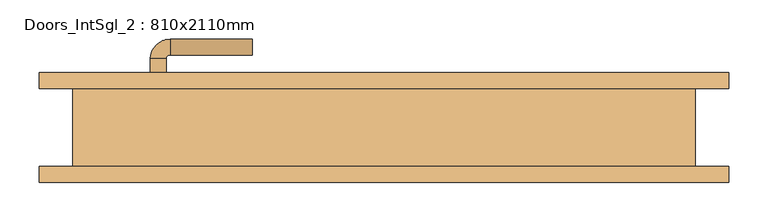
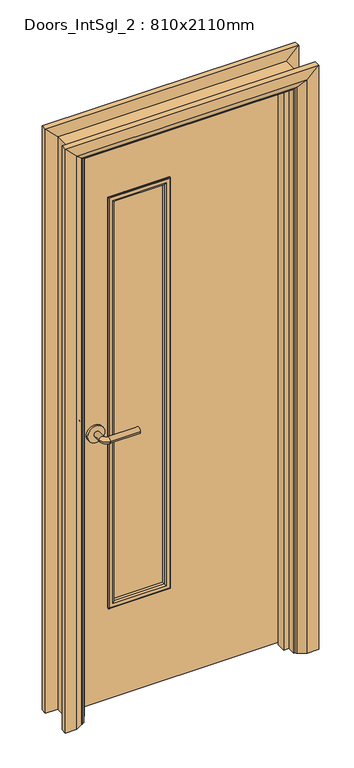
"""IFC4 building model written with IfcOpenShell, lengths in millimetres: door geometry, Doors_IntSgl_2 : 810x2110mm."""

from ifc_helpers import new_model, si_unit, point, frame, frame_2d, origin, place, context, project, spatial, polyline, circle_curve, ellipse_curve, trimmed, segment, composite_curve, outline, extrude, faceted_brep, source, transform, mapped, element, save
from ifc_brep_helpers import plane_surface, cylinder_surface, revolved_surface, advanced_brep


def doors_intsgl_2_810x2110mm_89a19a68(model_context):
    return source(origin(), model_context, "Body", "SolidModel", [
        advanced_brep(
        [(-298.0, 4.0, 1000.0), (-278.0, 4.0, 1000.0), (-278.0, -26.0, 1000.0), (-298.0, -26.0, 1000.0), (-273.0, -31.0, 1000.0), (-273.0, -51.0, 1000.0), (-168.0, -51.0, 1000.0), (-168.0, -31.0, 1000.0)],
        [
            (0, 1, circle_curve(frame((-288.0, 4.0, 1000.0), z_axis=(0.0, 1.0, 0.0), x_axis=(1.0, 0.0, 0.0)), 10.0)),
            (1, 0, circle_curve(frame((-288.0, 4.0, 1000.0), z_axis=(0.0, 1.0, 0.0), x_axis=(1.0, 0.0, 0.0)), 10.0)),
            (1, 2),
            (2, 3, circle_curve(frame((-288.0, -26.0, 1000.0), z_axis=(0.0, 1.0, 0.0), x_axis=(1.0, 0.0, 0.0)), 10.0)),
            (3, 0),
            (3, 2, circle_curve(frame((-288.0, -26.0, 1000.0), z_axis=(0.0, 1.0, 0.0), x_axis=(1.0, 0.0, 0.0)), 10.0)),
            (4, 5, circle_curve(frame((-273.0, -41.0, 1000.0), z_axis=(-1.0, 0.0, 0.0), x_axis=(0.0, 1.0, 0.0)), 10.0)),
            (5, 3, circle_curve(frame((-273.0, -26.0, 1000.0), z_axis=(0.0, 0.0, -1.0), x_axis=(-1.0, 0.0, 0.0)), 25.0)),
            (2, 4, circle_curve(frame((-273.0, -26.0, 1000.0), z_axis=(0.0, 0.0, 1.0), x_axis=(-1.0, 0.0, 0.0)), 5.0)),
            (5, 4, circle_curve(frame((-273.0, -41.0, 1000.0), z_axis=(-1.0, 0.0, 0.0), x_axis=(0.0, 1.0, 0.0)), 10.0)),
            (6, 7, circle_curve(frame((-168.0, -41.0, 1000.0), z_axis=(1.0, 0.0, 0.0), x_axis=(0.0, 1.0, 0.0)), 10.0)),
            (7, 6, circle_curve(frame((-168.0, -41.0, 1000.0), z_axis=(1.0, 0.0, 0.0), x_axis=(0.0, 1.0, 0.0)), 10.0)),
            (4, 7),
            (6, 5),
        ],
        [
            plane_surface(frame((-288.0, 4.0, 1000.0), z_axis=(0.0, 1.0, 0.0), x_axis=(0.0, 0.0, 1.0))),
            cylinder_surface(frame((-288.0, 4.0, 1000.0), z_axis=(0.0, 1.0, 0.0), x_axis=(1.0, 0.0, 0.0)), 10.0),
            revolved_surface(trimmed(ellipse_curve(frame((-288.0, -26.0, 1000.0), z_axis=(0.0, -1.0, 0.0), x_axis=(1.0, 0.0, 0.0)), 10.0, 10.0), [point((-298.0, -26.0, 1000.0))], [point((-278.0, -26.0, 1000.0))], True, "CARTESIAN"), (-273.0, -26.0, 1000.0), (0.0, 0.0, -1.0)),
            revolved_surface(trimmed(ellipse_curve(frame((-288.0, -26.0, 1000.0), z_axis=(0.0, -1.0, 0.0), x_axis=(1.0, 0.0, 0.0)), 10.0, 10.0), [point((-278.0, -26.0, 1000.0))], [point((-298.0, -26.0, 1000.0))], True, "CARTESIAN"), (-273.0, -26.0, 1000.0), (0.0, 0.0, -1.0)),
            plane_surface(frame((-168.0, -41.0, 1000.0), z_axis=(1.0, 0.0, 0.0), x_axis=(0.0, 0.0, 1.0))),
            cylinder_surface(frame((-273.0, -41.0, 1000.0), z_axis=(-1.0, 0.0, 0.0), x_axis=(0.0, 1.0, 0.0)), 10.0),
        ],
        [
            (0, [[1, 2]]),
            (1, [[3, 4, 5, -2]]),
            (1, [[-5, 6, -3, -1]]),
            (2, [[7, 8, -4, 9]]),
            (3, [[10, -9, -6, -8]]),
            (4, [[11, 12]]),
            (5, [[13, -11, 14, -7]]),
            (5, [[-14, -12, -13, -10]]),
        ],
    ),
        extrude(outline(composite_curve([segment(trimmed(circle_curve(frame_2d((1000.0, -290.5)), 30.0), [point((1000.0, -320.5))], [point((1000.0, -260.5))], False, "CARTESIAN"), True, "CONTINUOUS"), segment(trimmed(circle_curve(frame_2d((1000.0, -290.5)), 30.0), [point((1000.0, -260.5))], [point((1000.0, -320.5))], False, "CARTESIAN"), True, "CONTINUOUS")], self_intersect=False)), frame((0.0, 4.0, 0.0), z_axis=(0.0, 1.0, 0.0), x_axis=(0.0, 0.0, 1.0)), (0.0, 0.0, 1.0), 8.0),
        advanced_brep(
        [(-298.0, 58.0, 1000.0), (-278.0, 58.0, 1000.0), (-298.0, 88.0, 1000.0), (-278.0, 88.0, 1000.0), (-273.0, 93.0, 1000.0), (-273.0, 113.0, 1000.0), (-168.0, 113.0, 1000.0), (-168.0, 93.0, 1000.0)],
        [
            (0, 1, circle_curve(frame((-288.0, 58.0, 1000.0), z_axis=(0.0, -1.0, 0.0), x_axis=(1.0, 0.0, 0.0)), 10.0)),
            (1, 0, circle_curve(frame((-288.0, 58.0, 1000.0), z_axis=(0.0, -1.0, 0.0), x_axis=(1.0, 0.0, 0.0)), 10.0)),
            (0, 2),
            (2, 3, circle_curve(frame((-288.0, 88.0, 1000.0), z_axis=(0.0, -1.0, 0.0), x_axis=(1.0, 0.0, 0.0)), 10.0)),
            (3, 1),
            (3, 2, circle_curve(frame((-288.0, 88.0, 1000.0), z_axis=(0.0, -1.0, 0.0), x_axis=(1.0, 0.0, 0.0)), 10.0)),
            (4, 3, circle_curve(frame((-273.0, 88.0, 1000.0), z_axis=(0.0, 0.0, 1.0), x_axis=(-1.0, 0.0, 0.0)), 5.0)),
            (2, 5, circle_curve(frame((-273.0, 88.0, 1000.0), z_axis=(0.0, 0.0, -1.0), x_axis=(-1.0, 0.0, 0.0)), 25.0)),
            (5, 4, circle_curve(frame((-273.0, 103.0, 1000.0), z_axis=(-1.0, 0.0, 0.0), x_axis=(0.0, -1.0, 0.0)), 10.0)),
            (4, 5, circle_curve(frame((-273.0, 103.0, 1000.0), z_axis=(-1.0, 0.0, 0.0), x_axis=(0.0, -1.0, 0.0)), 10.0)),
            (6, 7, circle_curve(frame((-168.0, 103.0, 1000.0), z_axis=(1.0, 0.0, 0.0), x_axis=(0.0, -1.0, 0.0)), 10.0)),
            (7, 6, circle_curve(frame((-168.0, 103.0, 1000.0), z_axis=(1.0, 0.0, 0.0), x_axis=(0.0, -1.0, 0.0)), 10.0)),
            (5, 6),
            (7, 4),
        ],
        [
            plane_surface(frame((-288.0, 58.0, 1000.0), z_axis=(0.0, -1.0, 0.0), x_axis=(0.0, 0.0, 1.0))),
            cylinder_surface(frame((-288.0, 58.0, 1000.0), z_axis=(0.0, -1.0, 0.0), x_axis=(1.0, 0.0, 0.0)), 10.0),
            revolved_surface(trimmed(ellipse_curve(frame((-288.0, 88.0, 1000.0), z_axis=(0.0, -1.0, 0.0), x_axis=(1.0, 0.0, 0.0)), 10.0, 10.0), [point((-298.0, 88.0, 1000.0))], [point((-278.0, 88.0, 1000.0))], True, "CARTESIAN"), (-273.0, 88.0, 1000.0), (0.0, 0.0, -1.0)),
            revolved_surface(trimmed(ellipse_curve(frame((-288.0, 88.0, 1000.0), z_axis=(0.0, -1.0, 0.0), x_axis=(1.0, 0.0, 0.0)), 10.0, 10.0), [point((-278.0, 88.0, 1000.0))], [point((-298.0, 88.0, 1000.0))], True, "CARTESIAN"), (-273.0, 88.0, 1000.0), (0.0, 0.0, -1.0)),
            plane_surface(frame((-168.0, 103.0, 1000.0), z_axis=(1.0, 0.0, 0.0), x_axis=(0.0, 0.0, 1.0))),
            cylinder_surface(frame((-273.0, 103.0, 1000.0), z_axis=(-1.0, 0.0, 0.0), x_axis=(0.0, -1.0, 0.0)), 10.0),
        ],
        [
            (0, [[1, 2]]),
            (1, [[-1, 3, 4, 5]]),
            (1, [[-2, -5, 6, -3]]),
            (2, [[7, -4, 8, 9]]),
            (3, [[-8, -6, -7, 10]]),
            (4, [[11, 12]]),
            (5, [[-9, 13, -12, 14]]),
            (5, [[-10, -14, -11, -13]]),
        ],
    ),
        extrude(outline(composite_curve([segment(trimmed(circle_curve(frame_2d((1000.0, -290.5)), 30.0), [point((1000.0, -320.5))], [point((1000.0, -260.5))], False, "CARTESIAN"), True, "CONTINUOUS"), segment(trimmed(circle_curve(frame_2d((1000.0, -290.5)), 30.0), [point((1000.0, -260.5))], [point((1000.0, -320.5))], False, "CARTESIAN"), True, "CONTINUOUS")], self_intersect=False)), frame((0.0, 50.0, 0.0), z_axis=(0.0, 1.0, 0.0), x_axis=(0.0, 0.0, 1.0)), (0.0, 0.0, 1.0), 8.0),
        extrude(outline(polyline([(2068.0, -363.0), (8.0, -363.0), (8.0, 363.0), (2068.0, 363.0), (2068.0, -363.0)]), holes=[polyline([(1843.0, -38.0), (350.0, -38.0), (350.0, -238.0), (1843.0, -238.0), (1843.0, -38.0)])]), frame((0.0, 12.0, 0.0), z_axis=(0.0, 1.0, 0.0), x_axis=(0.0, 0.0, 1.0)), (0.0, 0.0, 1.0), 38.0),
        extrude(outline(polyline([(0.0, -365.0), (0.0, -346.0), (2051.0, -346.0), (2051.0, 346.0), (0.0, 346.0), (0.0, 365.0), (2070.0, 365.0), (2070.0, -365.0), (0.0, -365.0)])), frame((0.0, -22.0, 0.0), z_axis=(0.0, 1.0, 0.0), x_axis=(0.0, 0.0, 1.0)), (0.0, 0.0, 1.0), 32.0),
        advanced_brep(
        [(-440.0, 70.0, 0.0), (-400.0, 70.0, 0.0), (-374.0, 56.0, 0.0), (-370.0, 50.0, 0.0), (-440.0, 50.0, 0.0), (-440.0, 70.0, 2145.0), (-400.0, 70.0, 2105.0), (-374.0, 56.0, 2079.0), (-370.0, 50.0, 2075.0), (-440.0, 50.0, 2145.0), (440.0, 70.0, 0.0), (440.0, 50.0, 0.0), (370.0, 50.0, 0.0), (374.0, 56.0, 0.0), (400.0, 70.0, 0.0), (440.0, 70.0, 2145.0), (440.0, 50.0, 2145.0), (370.0, 50.0, 2075.0), (374.0, 56.0, 2079.0), (400.0, 70.0, 2105.0)],
        [
            (0, 1),
            (1, 2),
            (2, 3, circle_curve(frame((-378.0, 49.0, 0.0), z_axis=(0.0, 0.0, -1.0), x_axis=(-1.0, 0.0, 0.0)), 8.0622577)),
            (3, 4),
            (4, 0),
            (0, 5),
            (5, 6),
            (6, 1),
            (6, 7),
            (7, 2),
            (7, 8, ellipse_curve(frame((-378.0, 49.0, 2083.0), z_axis=(-0.7071067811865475, 0.0, -0.7071067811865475), x_axis=(0.7071067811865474, 0.0, -0.7071067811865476)), 11.4017543, 8.0622577)),
            (8, 3),
            (8, 9),
            (9, 4),
            (9, 5),
            (10, 11),
            (11, 12),
            (12, 13, circle_curve(frame((378.0, 49.0, 0.0), z_axis=(0.0, 0.0, -1.0), x_axis=(1.0, 0.0, 0.0)), 8.0622577)),
            (13, 14),
            (14, 10),
            (15, 16),
            (16, 11),
            (10, 15),
            (16, 17),
            (17, 12),
            (17, 18, ellipse_curve(frame((378.0, 49.0, 2083.0), z_axis=(0.7071067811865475, 0.0, -0.7071067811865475), x_axis=(0.7071067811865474, 0.0, 0.7071067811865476)), 11.4017543, 8.0622577)),
            (18, 13),
            (18, 19),
            (19, 14),
            (19, 15),
            (5, 15),
            (19, 6),
            (18, 7),
            (17, 8),
            (16, 9),
        ],
        [
            plane_surface(frame((-370.0, -22.8010989, 0.0), z_axis=(0.0, 0.0, -1.0), x_axis=(1.0, 0.0, 0.0))),
            plane_surface(frame((-440.0, 70.0, 0.0), z_axis=(0.0, 1.0, 0.0), x_axis=(0.0, 0.0, 1.0))),
            plane_surface(frame((-400.0, 70.0, 0.0), z_axis=(0.4740998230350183, 0.8804710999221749, 0.0), x_axis=(0.0, 0.0, 1.0))),
            cylinder_surface(frame((-378.0, 49.0, 0.0), z_axis=(0.0, 0.0, -1.0), x_axis=(-1.0, 0.0, 0.0)), 8.0622577),
            plane_surface(frame((-370.0, 50.0, 0.0), z_axis=(0.0, -1.0, 0.0), x_axis=(0.0, 0.0, 1.0))),
            plane_surface(frame((-440.0, 50.0, 0.0), z_axis=(-1.0, 0.0, 0.0), x_axis=(0.0, 0.0, 1.0))),
            plane_surface(frame((370.0, -22.8010989, 0.0), z_axis=(0.0, 0.0, -1.0), x_axis=(-1.0, 0.0, 0.0))),
            plane_surface(frame((440.0, 50.0, 2145.0), z_axis=(1.0, 0.0, 0.0), x_axis=(0.0, 0.0, -1.0))),
            plane_surface(frame((370.0, 50.0, 2075.0), z_axis=(0.0, -1.0, 0.0), x_axis=(0.0, 0.0, -1.0))),
            cylinder_surface(frame((378.0, 49.0, 2075.0), z_axis=(0.0, 0.0, 1.0), x_axis=(1.0, 0.0, 0.0)), 8.0622577),
            plane_surface(frame((400.0, 70.0, 2105.0), z_axis=(-0.4740998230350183, 0.8804710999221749, 0.0), x_axis=(0.0, 0.0, -1.0))),
            plane_surface(frame((440.0, 70.0, 2145.0), z_axis=(0.0, 1.0, 0.0), x_axis=(0.0, 0.0, -1.0))),
            plane_surface(frame((-440.0, 70.0, 2145.0), z_axis=(0.0, 1.0, 0.0), x_axis=(1.0, 0.0, 0.0))),
            plane_surface(frame((-400.0, 70.0, 2105.0), z_axis=(0.0, 0.8804710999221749, -0.4740998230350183), x_axis=(1.0, 0.0, 0.0))),
            cylinder_surface(frame((-370.0, 49.0, 2083.0), z_axis=(-1.0, 0.0, 0.0), x_axis=(0.0, 0.0, 1.0)), 8.0622577),
            plane_surface(frame((-370.0, 50.0, 2075.0), z_axis=(0.0, -1.0, 0.0), x_axis=(1.0, 0.0, 0.0))),
            plane_surface(frame((-440.0, 50.0, 2145.0), z_axis=(0.0, 0.0, 1.0), x_axis=(1.0, 0.0, 0.0))),
        ],
        [
            (0, [[1, 2, 3, 4, 5]]),
            (1, [[-1, 6, 7, 8]]),
            (2, [[-2, -8, 9, 10]]),
            (3, [[-3, -10, 11, 12]]),
            (4, [[-4, -12, 13, 14]]),
            (5, [[-5, -14, 15, -6]]),
            (6, [[16, 17, 18, 19, 20]]),
            (7, [[21, 22, -16, 23]]),
            (8, [[24, 25, -17, -22]]),
            (9, [[26, 27, -18, -25]]),
            (10, [[28, 29, -19, -27]]),
            (11, [[30, -23, -20, -29]]),
            (12, [[-7, 31, -30, 32]]),
            (13, [[-9, -32, -28, 33]]),
            (14, [[-11, -33, -26, 34]]),
            (15, [[-13, -34, -24, 35]]),
            (16, [[-15, -35, -21, -31]]),
        ],
    ),
        advanced_brep(
        [(-440.0, -70.0, 0.0), (-440.0, -50.0, 0.0), (-370.0, -50.0, 0.0), (-374.0, -56.0, 0.0), (-400.0, -70.0, 0.0), (-440.0, -70.0, 2145.0), (-440.0, -50.0, 2145.0), (-370.0, -50.0, 2075.0), (-374.0, -56.0, 2079.0), (-400.0, -70.0, 2105.0), (440.0, -70.0, 0.0), (400.0, -70.0, 0.0), (374.0, -56.0, 0.0), (370.0, -50.0, 0.0), (440.0, -50.0, 0.0), (440.0, -70.0, 2145.0), (400.0, -70.0, 2105.0), (374.0, -56.0, 2079.0), (370.0, -50.0, 2075.0), (440.0, -50.0, 2145.0)],
        [
            (0, 1),
            (1, 2),
            (2, 3, circle_curve(frame((-378.0, -49.0, 0.0), z_axis=(0.0, 0.0, -1.0), x_axis=(-1.0, 0.0, 0.0)), 8.0622577)),
            (3, 4),
            (4, 0),
            (0, 5),
            (5, 6),
            (6, 1),
            (6, 7),
            (7, 2),
            (7, 8, ellipse_curve(frame((-378.0, -49.0, 2083.0), z_axis=(-0.7071067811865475, 0.0, -0.7071067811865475), x_axis=(0.7071067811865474, 0.0, -0.7071067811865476)), 11.4017543, 8.0622577)),
            (8, 3),
            (8, 9),
            (9, 4),
            (9, 5),
            (10, 11),
            (11, 12),
            (12, 13, circle_curve(frame((378.0, -49.0, 0.0), z_axis=(0.0, 0.0, -1.0), x_axis=(1.0, 0.0, 0.0)), 8.0622577)),
            (13, 14),
            (14, 10),
            (15, 16),
            (16, 11),
            (10, 15),
            (16, 17),
            (17, 12),
            (17, 18, ellipse_curve(frame((378.0, -49.0, 2083.0), z_axis=(0.7071067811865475, 0.0, -0.7071067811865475), x_axis=(0.7071067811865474, 0.0, 0.7071067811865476)), 11.4017543, 8.0622577)),
            (18, 13),
            (18, 19),
            (19, 14),
            (19, 15),
            (5, 15),
            (19, 6),
            (18, 7),
            (17, 8),
            (16, 9),
        ],
        [
            plane_surface(frame((-370.0, -122.8010989, 0.0), z_axis=(0.0, 0.0, -1.0), x_axis=(1.0, 0.0, 0.0))),
            plane_surface(frame((-440.0, -70.0, 0.0), z_axis=(-1.0, 0.0, 0.0), x_axis=(0.0, 0.0, 1.0))),
            plane_surface(frame((-440.0, -50.0, 0.0), z_axis=(0.0, 1.0, 0.0), x_axis=(0.0, 0.0, 1.0))),
            cylinder_surface(frame((-378.0, -49.0, 0.0), z_axis=(0.0, 0.0, -1.0), x_axis=(-1.0, 0.0, 0.0)), 8.0622577),
            plane_surface(frame((-374.0, -56.0, 0.0), z_axis=(0.4740998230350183, -0.8804710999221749, 0.0), x_axis=(0.0, 0.0, 1.0))),
            plane_surface(frame((-400.0, -70.0, 0.0), z_axis=(0.0, -1.0, 0.0), x_axis=(0.0, 0.0, 1.0))),
            plane_surface(frame((370.0, -122.8010989, 0.0), z_axis=(0.0, 0.0, -1.0), x_axis=(-1.0, 0.0, 0.0))),
            plane_surface(frame((400.0, -70.0, 2105.0), z_axis=(0.0, -1.0, 0.0), x_axis=(0.0, 0.0, -1.0))),
            plane_surface(frame((374.0, -56.0, 2079.0), z_axis=(-0.4740998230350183, -0.8804710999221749, 0.0), x_axis=(0.0, 0.0, -1.0))),
            cylinder_surface(frame((378.0, -49.0, 2075.0), z_axis=(0.0, 0.0, 1.0), x_axis=(1.0, 0.0, 0.0)), 8.0622577),
            plane_surface(frame((440.0, -50.0, 2145.0), z_axis=(0.0, 1.0, 0.0), x_axis=(0.0, 0.0, -1.0))),
            plane_surface(frame((440.0, -70.0, 2145.0), z_axis=(1.0, 0.0, 0.0), x_axis=(0.0, 0.0, -1.0))),
            plane_surface(frame((-440.0, -70.0, 2145.0), z_axis=(0.0, 0.0, 1.0), x_axis=(1.0, 0.0, 0.0))),
            plane_surface(frame((-440.0, -50.0, 2145.0), z_axis=(0.0, 1.0, 0.0), x_axis=(1.0, 0.0, 0.0))),
            cylinder_surface(frame((-370.0, -49.0, 2083.0), z_axis=(-1.0, 0.0, 0.0), x_axis=(0.0, 0.0, 1.0)), 8.0622577),
            plane_surface(frame((-374.0, -56.0, 2079.0), z_axis=(0.0, -0.8804710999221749, -0.4740998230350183), x_axis=(1.0, 0.0, 0.0))),
            plane_surface(frame((-400.0, -70.0, 2105.0), z_axis=(0.0, -1.0, 0.0), x_axis=(1.0, 0.0, 0.0))),
        ],
        [
            (0, [[1, 2, 3, 4, 5]]),
            (1, [[-1, 6, 7, 8]]),
            (2, [[-2, -8, 9, 10]]),
            (3, [[-3, -10, 11, 12]]),
            (4, [[-4, -12, 13, 14]]),
            (5, [[-5, -14, 15, -6]]),
            (6, [[16, 17, 18, 19, 20]]),
            (7, [[21, 22, -16, 23]]),
            (8, [[24, 25, -17, -22]]),
            (9, [[26, 27, -18, -25]]),
            (10, [[28, 29, -19, -27]]),
            (11, [[30, -23, -20, -29]]),
            (12, [[-7, 31, -30, 32]]),
            (13, [[-9, -32, -28, 33]]),
            (14, [[-11, -33, -26, 34]]),
            (15, [[-13, -34, -24, 35]]),
            (16, [[-15, -35, -21, -31]]),
        ],
    ),
        faceted_brep([(-365.0, 50.0, 0.0), (-365.0, -50.0, 0.0), (-397.0, -50.0, 0.0), (-397.0, 50.0, 0.0), (-365.0, 50.0, 2070.0), (-365.0, -50.0, 2070.0), (-397.0, -50.0, 2102.0), (-397.0, 50.0, 2102.0), (365.0, 50.0, 0.0), (397.0, 50.0, 0.0), (397.0, -50.0, 0.0), (365.0, -50.0, 0.0), (365.0, 50.0, 2070.0), (397.0, 50.0, 2102.0), (397.0, -50.0, 2102.0), (365.0, -50.0, 2070.0)], [[[0, 1, 2, 3]], [[1, 0, 4, 5]], [[2, 1, 5, 6]], [[3, 2, 6, 7]], [[0, 3, 7, 4]], [[8, 9, 10, 11]], [[12, 13, 9, 8]], [[13, 14, 10, 9]], [[14, 15, 11, 10]], [[15, 12, 8, 11]], [[5, 4, 12, 15]], [[6, 5, 15, 14]], [[7, 6, 14, 13]], [[4, 7, 13, 12]]]),
        extrude(outline(polyline([(-238.0, 40.0), (-38.0, 40.0), (-38.0, 22.0), (-238.0, 22.0), (-238.0, 40.0)])), frame((0.0, 0.0, 350.0), z_axis=(0.0, 0.0, 1.0), x_axis=(1.0, 0.0, 0.0)), (0.0, 0.0, 1.0), 1493.0),
        advanced_brep(
        [(-38.0, 22.0, 1843.0), (-38.0, 12.0, 1843.0), (-38.0, 12.0, 350.0), (-38.0, 22.0, 350.0), (-50.0, 11.0, 1831.0), (-50.0, 22.0, 1831.0), (-50.0, 22.0, 362.0), (-50.0, 11.0, 362.0), (-45.0, 6.0, 1836.0), (-45.0, 6.0, 357.0), (-30.0, 8.0, 1851.0), (-32.0, 6.0, 1849.0), (-32.0, 6.0, 344.0), (-30.0, 8.0, 342.0), (-30.0, 12.0, 1851.0), (-30.0, 12.0, 342.0), (-238.0, 12.0, 350.0), (-238.0, 22.0, 350.0), (-226.0, 22.0, 362.0), (-226.0, 11.0, 362.0), (-231.0, 6.0, 357.0), (-244.0, 6.0, 344.0), (-246.0, 8.0, 342.0), (-246.0, 12.0, 342.0), (-238.0, 12.0, 1843.0), (-238.0, 22.0, 1843.0), (-226.0, 22.0, 1831.0), (-226.0, 11.0, 1831.0), (-231.0, 6.0, 1836.0), (-244.0, 6.0, 1849.0), (-246.0, 8.0, 1851.0), (-246.0, 12.0, 1851.0)],
        [
            (0, 1),
            (1, 2),
            (2, 3),
            (3, 0),
            (4, 5),
            (5, 6),
            (6, 7),
            (7, 4),
            (8, 4, ellipse_curve(frame((-45.0, 11.0, 1836.0), z_axis=(0.7071067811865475, 0.0, -0.7071067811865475), x_axis=(0.7071067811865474, 0.0, 0.7071067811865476)), 7.0710678, 5.0)),
            (7, 9, ellipse_curve(frame((-45.0, 11.0, 357.0), z_axis=(0.7071067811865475, 0.0, 0.7071067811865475), x_axis=(-0.7071067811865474, 0.0, 0.7071067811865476)), 7.0710678, 5.0)),
            (9, 8),
            (10, 11, ellipse_curve(frame((-32.0, 8.0, 1849.0), z_axis=(0.7071067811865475, 0.0, -0.7071067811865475), x_axis=(0.7071067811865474, 0.0, 0.7071067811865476)), 2.8284271, 2.0)),
            (11, 12),
            (12, 13, ellipse_curve(frame((-32.0, 8.0, 344.0), z_axis=(0.7071067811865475, 0.0, 0.7071067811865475), x_axis=(-0.7071067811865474, 0.0, 0.7071067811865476)), 2.8284271, 2.0)),
            (13, 10),
            (14, 10),
            (13, 15),
            (15, 14),
            (2, 16),
            (16, 17),
            (17, 3),
            (6, 18),
            (18, 19),
            (19, 7),
            (19, 20, ellipse_curve(frame((-231.0, 11.0, 357.0), z_axis=(0.7071067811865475, 0.0, -0.7071067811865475), x_axis=(0.7071067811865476, 0.0, 0.7071067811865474)), 7.0710678, 5.0)),
            (20, 9),
            (12, 21),
            (21, 22, ellipse_curve(frame((-244.0, 8.0, 344.0), z_axis=(0.7071067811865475, 0.0, -0.7071067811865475), x_axis=(0.7071067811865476, 0.0, 0.7071067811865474)), 2.8284271, 2.0)),
            (22, 13),
            (22, 23),
            (23, 15),
            (16, 24),
            (24, 25),
            (25, 17),
            (18, 26),
            (26, 27),
            (27, 19),
            (27, 28, ellipse_curve(frame((-231.0, 11.0, 1836.0), z_axis=(-0.7071067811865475, 0.0, -0.7071067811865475), x_axis=(0.7071067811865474, 0.0, -0.7071067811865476)), 7.0710678, 5.0)),
            (28, 20),
            (21, 29),
            (29, 30, ellipse_curve(frame((-244.0, 8.0, 1849.0), z_axis=(-0.7071067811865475, 0.0, -0.7071067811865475), x_axis=(0.7071067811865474, 0.0, -0.7071067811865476)), 2.8284271, 2.0)),
            (30, 22),
            (30, 31),
            (31, 23),
            (31, 14),
            (1, 24),
            (0, 25),
            (5, 26),
            (4, 27),
            (8, 28),
            (11, 29),
            (10, 30),
        ],
        [
            plane_surface(frame((-38.0, 12.0, 1843.0), z_axis=(1.0, 0.0, 0.0), x_axis=(0.0, 0.0, -1.0))),
            plane_surface(frame((-50.0, 22.0, 1831.0), z_axis=(-1.0, 0.0, 0.0), x_axis=(0.0, 0.0, -1.0))),
            cylinder_surface(frame((-45.0, 11.0, 1843.0), z_axis=(0.0, 0.0, 1.0), x_axis=(1.0, 0.0, 0.0)), 5.0),
            cylinder_surface(frame((-32.0, 8.0, 1843.0), z_axis=(0.0, 0.0, 1.0), x_axis=(1.0, 0.0, 0.0)), 2.0),
            plane_surface(frame((-30.0, 8.0, 1851.0), z_axis=(1.0, 0.0, 0.0), x_axis=(0.0, 0.0, -1.0))),
            plane_surface(frame((-38.0, 12.0, 350.0), z_axis=(0.0, 0.0, -1.0), x_axis=(-1.0, 0.0, 0.0))),
            plane_surface(frame((-50.0, 22.0, 362.0), z_axis=(0.0, 0.0, 1.0), x_axis=(-1.0, 0.0, 0.0))),
            cylinder_surface(frame((-38.0, 11.0, 357.0), z_axis=(1.0, 0.0, 0.0), x_axis=(0.0, 0.0, -1.0)), 5.0),
            cylinder_surface(frame((-38.0, 8.0, 344.0), z_axis=(1.0, 0.0, 0.0), x_axis=(0.0, 0.0, -1.0)), 2.0),
            plane_surface(frame((-30.0, 8.0, 342.0), z_axis=(0.0, 0.0, -1.0), x_axis=(-1.0, 0.0, 0.0))),
            plane_surface(frame((-238.0, 12.0, 350.0), z_axis=(-1.0, 0.0, 0.0), x_axis=(0.0, 0.0, 1.0))),
            plane_surface(frame((-226.0, 22.0, 362.0), z_axis=(1.0, 0.0, 0.0), x_axis=(0.0, 0.0, 1.0))),
            cylinder_surface(frame((-231.0, 11.0, 350.0), z_axis=(0.0, 0.0, -1.0), x_axis=(-1.0, 0.0, 0.0)), 5.0),
            cylinder_surface(frame((-244.0, 8.0, 350.0), z_axis=(0.0, 0.0, -1.0), x_axis=(-1.0, 0.0, 0.0)), 2.0),
            plane_surface(frame((-246.0, 8.0, 342.0), z_axis=(-1.0, 0.0, 0.0), x_axis=(0.0, 0.0, 1.0))),
            plane_surface(frame((-246.0, 12.0, 1851.0), z_axis=(0.0, 1.0, 0.0), x_axis=(1.0, 0.0, 0.0))),
            plane_surface(frame((-238.0, 12.0, 1843.0), z_axis=(0.0, 0.0, 1.0), x_axis=(1.0, 0.0, 0.0))),
            plane_surface(frame((-238.0, 22.0, 1843.0), z_axis=(0.0, 1.0, 0.0), x_axis=(1.0, 0.0, 0.0))),
            plane_surface(frame((-226.0, 22.0, 1831.0), z_axis=(0.0, 0.0, -1.0), x_axis=(1.0, 0.0, 0.0))),
            cylinder_surface(frame((-238.0, 11.0, 1836.0), z_axis=(-1.0, 0.0, 0.0), x_axis=(0.0, 0.0, 1.0)), 5.0),
            plane_surface(frame((-231.0, 6.0, 1836.0), z_axis=(0.0, -1.0, 0.0), x_axis=(1.0, 0.0, 0.0))),
            cylinder_surface(frame((-238.0, 8.0, 1849.0), z_axis=(-1.0, 0.0, 0.0), x_axis=(0.0, 0.0, 1.0)), 2.0),
            plane_surface(frame((-246.0, 8.0, 1851.0), z_axis=(0.0, 0.0, 1.0), x_axis=(1.0, 0.0, 0.0))),
        ],
        [
            (0, [[1, 2, 3, 4]]),
            (1, [[5, 6, 7, 8]]),
            (2, [[9, -8, 10, 11]]),
            (3, [[12, 13, 14, 15]]),
            (4, [[16, -15, 17, 18]]),
            (5, [[-3, 19, 20, 21]]),
            (6, [[-7, 22, 23, 24]]),
            (7, [[-10, -24, 25, 26]]),
            (8, [[-14, 27, 28, 29]]),
            (9, [[-17, -29, 30, 31]]),
            (10, [[-20, 32, 33, 34]]),
            (11, [[-23, 35, 36, 37]]),
            (12, [[-25, -37, 38, 39]]),
            (13, [[-28, 40, 41, 42]]),
            (14, [[-30, -42, 43, 44]]),
            (15, [[-31, -44, 45, -18], [46, -32, -19, -2]]),
            (16, [[-33, -46, -1, 47]]),
            (17, [[-21, -34, -47, -4], [48, -35, -22, -6]]),
            (18, [[-36, -48, -5, 49]]),
            (19, [[-38, -49, -9, 50]]),
            (20, [[51, -40, -27, -13], [-26, -39, -50, -11]]),
            (21, [[-41, -51, -12, 52]]),
            (22, [[-43, -52, -16, -45]]),
        ],
    ),
        advanced_brep(
        [(-30.0, 54.0, 1851.0), (-30.0, 50.0, 1851.0), (-30.0, 50.0, 342.0), (-30.0, 54.0, 342.0), (-32.0, 56.0, 1849.0), (-32.0, 56.0, 344.0), (-50.0, 51.0, 1831.0), (-45.0, 56.0, 1836.0), (-45.0, 56.0, 357.0), (-50.0, 51.0, 362.0), (-50.0, 40.0, 1831.0), (-50.0, 40.0, 362.0), (-38.0, 50.0, 1843.0), (-38.0, 40.0, 1843.0), (-38.0, 40.0, 350.0), (-38.0, 50.0, 350.0), (-246.0, 50.0, 342.0), (-246.0, 54.0, 342.0), (-244.0, 56.0, 344.0), (-231.0, 56.0, 357.0), (-226.0, 51.0, 362.0), (-226.0, 40.0, 362.0), (-238.0, 40.0, 350.0), (-238.0, 50.0, 350.0), (-246.0, 50.0, 1851.0), (-246.0, 54.0, 1851.0), (-244.0, 56.0, 1849.0), (-231.0, 56.0, 1836.0), (-226.0, 51.0, 1831.0), (-226.0, 40.0, 1831.0), (-238.0, 40.0, 1843.0), (-238.0, 50.0, 1843.0)],
        [
            (0, 1),
            (1, 2),
            (2, 3),
            (3, 0),
            (4, 0, ellipse_curve(frame((-32.0, 54.0, 1849.0), z_axis=(0.7071067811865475, 0.0, -0.7071067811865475), x_axis=(0.7071067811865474, 0.0, 0.7071067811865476)), 2.8284271, 2.0)),
            (3, 5, ellipse_curve(frame((-32.0, 54.0, 344.0), z_axis=(0.7071067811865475, 0.0, 0.7071067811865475), x_axis=(-0.7071067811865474, 0.0, 0.7071067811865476)), 2.8284271, 2.0)),
            (5, 4),
            (6, 7, ellipse_curve(frame((-45.0, 51.0, 1836.0), z_axis=(0.7071067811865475, 0.0, -0.7071067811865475), x_axis=(0.7071067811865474, 0.0, 0.7071067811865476)), 7.0710678, 5.0)),
            (7, 8),
            (8, 9, ellipse_curve(frame((-45.0, 51.0, 357.0), z_axis=(0.7071067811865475, 0.0, 0.7071067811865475), x_axis=(-0.7071067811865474, 0.0, 0.7071067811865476)), 7.0710678, 5.0)),
            (9, 6),
            (10, 6),
            (9, 11),
            (11, 10),
            (12, 13),
            (13, 14),
            (14, 15),
            (15, 12),
            (2, 16),
            (16, 17),
            (17, 3),
            (17, 18, ellipse_curve(frame((-244.0, 54.0, 344.0), z_axis=(0.7071067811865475, 0.0, -0.7071067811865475), x_axis=(0.7071067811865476, 0.0, 0.7071067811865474)), 2.8284271, 2.0)),
            (18, 5),
            (8, 19),
            (19, 20, ellipse_curve(frame((-231.0, 51.0, 357.0), z_axis=(0.7071067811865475, 0.0, -0.7071067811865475), x_axis=(0.7071067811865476, 0.0, 0.7071067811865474)), 7.0710678, 5.0)),
            (20, 9),
            (20, 21),
            (21, 11),
            (14, 22),
            (22, 23),
            (23, 15),
            (16, 24),
            (24, 25),
            (25, 17),
            (25, 26, ellipse_curve(frame((-244.0, 54.0, 1849.0), z_axis=(-0.7071067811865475, 0.0, -0.7071067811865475), x_axis=(0.7071067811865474, 0.0, -0.7071067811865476)), 2.8284271, 2.0)),
            (26, 18),
            (19, 27),
            (27, 28, ellipse_curve(frame((-231.0, 51.0, 1836.0), z_axis=(-0.7071067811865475, 0.0, -0.7071067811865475), x_axis=(0.7071067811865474, 0.0, -0.7071067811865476)), 7.0710678, 5.0)),
            (28, 20),
            (28, 29),
            (29, 21),
            (22, 30),
            (30, 31),
            (31, 23),
            (24, 1),
            (0, 25),
            (4, 26),
            (7, 27),
            (6, 28),
            (10, 29),
            (13, 30),
            (12, 31),
        ],
        [
            plane_surface(frame((-30.0, 50.0, 1851.0), z_axis=(1.0, 0.0, 0.0), x_axis=(0.0, 0.0, -1.0))),
            cylinder_surface(frame((-32.0, 54.0, 1843.0), z_axis=(0.0, 0.0, 1.0), x_axis=(1.0, 0.0, 0.0)), 2.0),
            cylinder_surface(frame((-45.0, 51.0, 1843.0), z_axis=(0.0, 0.0, 1.0), x_axis=(1.0, 0.0, 0.0)), 5.0),
            plane_surface(frame((-50.0, 51.0, 1831.0), z_axis=(-1.0, 0.0, 0.0), x_axis=(0.0, 0.0, -1.0))),
            plane_surface(frame((-38.0, 40.0, 1843.0), z_axis=(1.0, 0.0, 0.0), x_axis=(0.0, 0.0, -1.0))),
            plane_surface(frame((-30.0, 50.0, 342.0), z_axis=(0.0, 0.0, -1.0), x_axis=(-1.0, 0.0, 0.0))),
            cylinder_surface(frame((-38.0, 54.0, 344.0), z_axis=(1.0, 0.0, 0.0), x_axis=(0.0, 0.0, -1.0)), 2.0),
            cylinder_surface(frame((-38.0, 51.0, 357.0), z_axis=(1.0, 0.0, 0.0), x_axis=(0.0, 0.0, -1.0)), 5.0),
            plane_surface(frame((-50.0, 51.0, 362.0), z_axis=(0.0, 0.0, 1.0), x_axis=(-1.0, 0.0, 0.0))),
            plane_surface(frame((-38.0, 40.0, 350.0), z_axis=(0.0, 0.0, -1.0), x_axis=(-1.0, 0.0, 0.0))),
            plane_surface(frame((-246.0, 50.0, 342.0), z_axis=(-1.0, 0.0, 0.0), x_axis=(0.0, 0.0, 1.0))),
            cylinder_surface(frame((-244.0, 54.0, 350.0), z_axis=(0.0, 0.0, -1.0), x_axis=(-1.0, 0.0, 0.0)), 2.0),
            cylinder_surface(frame((-231.0, 51.0, 350.0), z_axis=(0.0, 0.0, -1.0), x_axis=(-1.0, 0.0, 0.0)), 5.0),
            plane_surface(frame((-226.0, 51.0, 362.0), z_axis=(1.0, 0.0, 0.0), x_axis=(0.0, 0.0, 1.0))),
            plane_surface(frame((-238.0, 40.0, 350.0), z_axis=(-1.0, 0.0, 0.0), x_axis=(0.0, 0.0, 1.0))),
            plane_surface(frame((-246.0, 50.0, 1851.0), z_axis=(0.0, 0.0, 1.0), x_axis=(1.0, 0.0, 0.0))),
            cylinder_surface(frame((-238.0, 54.0, 1849.0), z_axis=(-1.0, 0.0, 0.0), x_axis=(0.0, 0.0, 1.0)), 2.0),
            plane_surface(frame((-244.0, 56.0, 1849.0), z_axis=(0.0, 1.0, 0.0), x_axis=(1.0, 0.0, 0.0))),
            cylinder_surface(frame((-238.0, 51.0, 1836.0), z_axis=(-1.0, 0.0, 0.0), x_axis=(0.0, 0.0, 1.0)), 5.0),
            plane_surface(frame((-226.0, 51.0, 1831.0), z_axis=(0.0, 0.0, -1.0), x_axis=(1.0, 0.0, 0.0))),
            plane_surface(frame((-226.0, 40.0, 1831.0), z_axis=(0.0, -1.0, 0.0), x_axis=(1.0, 0.0, 0.0))),
            plane_surface(frame((-238.0, 40.0, 1843.0), z_axis=(0.0, 0.0, 1.0), x_axis=(1.0, 0.0, 0.0))),
            plane_surface(frame((-238.0, 50.0, 1843.0), z_axis=(0.0, -1.0, 0.0), x_axis=(1.0, 0.0, 0.0))),
        ],
        [
            (0, [[1, 2, 3, 4]]),
            (1, [[5, -4, 6, 7]]),
            (2, [[8, 9, 10, 11]]),
            (3, [[12, -11, 13, 14]]),
            (4, [[15, 16, 17, 18]]),
            (5, [[-3, 19, 20, 21]]),
            (6, [[-6, -21, 22, 23]]),
            (7, [[-10, 24, 25, 26]]),
            (8, [[-13, -26, 27, 28]]),
            (9, [[-17, 29, 30, 31]]),
            (10, [[-20, 32, 33, 34]]),
            (11, [[-22, -34, 35, 36]]),
            (12, [[-25, 37, 38, 39]]),
            (13, [[-27, -39, 40, 41]]),
            (14, [[-30, 42, 43, 44]]),
            (15, [[-33, 45, -1, 46]]),
            (16, [[-35, -46, -5, 47]]),
            (17, [[-23, -36, -47, -7], [48, -37, -24, -9]]),
            (18, [[-38, -48, -8, 49]]),
            (19, [[-40, -49, -12, 50]]),
            (20, [[51, -42, -29, -16], [-28, -41, -50, -14]]),
            (21, [[-43, -51, -15, 52]]),
            (22, [[-45, -32, -19, -2], [-31, -44, -52, -18]]),
        ],
    ),
    ])


if __name__ == "__main__":
    model = new_model("IFC4")
    model_context = context("Model", 3, world=origin())
    ifc_project = project(units=[si_unit("LENGTHUNIT", "METRE", prefix="MILLI")], contexts=[model_context])
    site = spatial("IfcSite", under=ifc_project)
    building = spatial("IfcBuilding", under=site)
    placement = place(None, origin())
    doors_intsgl_2_810x2110mm_shape = doors_intsgl_2_810x2110mm_89a19a68(model_context)
    element("IfcDoor", 1, ObjectType="Doors_IntSgl_2 : 810x2110mm", at=placement, inside=building, context=model_context, shape_type="MappedRepresentation", body=[
        mapped(doors_intsgl_2_810x2110mm_shape, transform((0.0, 0.0, 0.0), x_axis=(1.0, 0.0, 0.0), y_axis=(0.0, 1.0, 0.0), z_axis=(0.0, 0.0, 1.0))),
    ])
    save(model, "model.ifc")
